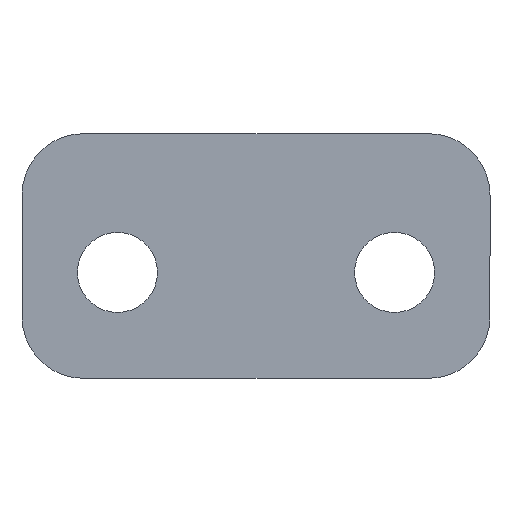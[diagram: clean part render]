
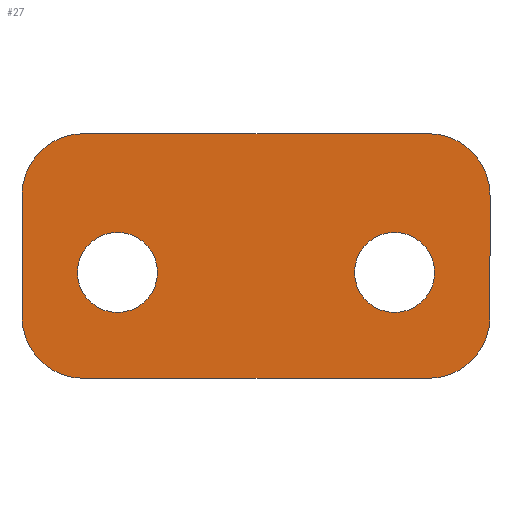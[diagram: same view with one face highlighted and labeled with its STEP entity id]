
A CAD part, front view. The second image highlights one B-rep face of the part: STEP entity #27.
In plain terms, the highlighted planar face has unit normal (0, -1, 0).
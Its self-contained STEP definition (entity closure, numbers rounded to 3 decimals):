
#8 = CARTESIAN_POINT ( 'NONE',  ( 22.5, 0., -29.04 ) ) ;
#10 = DIRECTION ( 'NONE',  ( 0., 0., 1. ) ) ;
#13 = CARTESIAN_POINT ( 'NONE',  ( -28., 0., -39.74 ) ) ;
#21 = EDGE_LOOP ( 'NONE', ( #287, #231, #251, #442, #207, #38, #490, #84 ) ) ;
#24 = CARTESIAN_POINT ( 'NONE',  ( 38., 0., -29.74 ) ) ;
#27 = ADVANCED_FACE ( 'NONE', ( #450, #73, #242 ), #203, .F. ) ;
#29 = ORIENTED_EDGE ( 'NONE', *, *, #481, .F. ) ;
#32 = DIRECTION ( 'NONE',  ( 0., 0., 1. ) ) ;
#34 = VERTEX_POINT ( 'NONE', #199 ) ;
#38 = ORIENTED_EDGE ( 'NONE', *, *, #99, .T. ) ;
#43 = EDGE_CURVE ( 'NONE', #77, #488, #513, .T. ) ;
#45 = CIRCLE ( 'NONE', #399, 10. ) ;
#58 = VERTEX_POINT ( 'NONE', #8 ) ;
#60 = AXIS2_PLACEMENT_3D ( 'NONE', #472, #312, #507 ) ;
#63 = DIRECTION ( 'NONE',  ( 0., 0., 1. ) ) ;
#65 = LINE ( 'NONE', #106, #324 ) ;
#67 = VERTEX_POINT ( 'NONE', #499 ) ;
#70 = ORIENTED_EDGE ( 'NONE', *, *, #315, .F. ) ;
#73 = FACE_BOUND ( 'NONE', #308, .T. ) ;
#77 = VERTEX_POINT ( 'NONE', #167 ) ;
#78 = CARTESIAN_POINT ( 'NONE',  ( 38., 0., 0. ) ) ;
#84 = ORIENTED_EDGE ( 'NONE', *, *, #163, .T. ) ;
#91 = EDGE_CURVE ( 'NONE', #34, #326, #272, .T. ) ;
#92 = CARTESIAN_POINT ( 'NONE',  ( -28., 0., -10. ) ) ;
#93 = AXIS2_PLACEMENT_3D ( 'NONE', #389, #268, #63 ) ;
#99 = EDGE_CURVE ( 'NONE', #162, #67, #45, .T. ) ;
#101 = VERTEX_POINT ( 'NONE', #339 ) ;
#103 = CIRCLE ( 'NONE', #191, 10. ) ;
#106 = CARTESIAN_POINT ( 'NONE',  ( -38., 0., -39.74 ) ) ;
#112 = CIRCLE ( 'NONE', #179, 6.5 ) ;
#113 = VERTEX_POINT ( 'NONE', #220 ) ;
#114 = DIRECTION ( 'NONE',  ( 0., 0., 1. ) ) ;
#119 = CARTESIAN_POINT ( 'NONE',  ( -38., 0., 0. ) ) ;
#128 = EDGE_CURVE ( 'NONE', #257, #276, #426, .T. ) ;
#130 = DIRECTION ( 'NONE',  ( 0., -1., 0. ) ) ;
#132 = CIRCLE ( 'NONE', #93, 6.5 ) ;
#149 = AXIS2_PLACEMENT_3D ( 'NONE', #367, #404, #32 ) ;
#162 = VERTEX_POINT ( 'NONE', #263 ) ;
#163 = EDGE_CURVE ( 'NONE', #113, #269, #103, .T. ) ;
#167 = CARTESIAN_POINT ( 'NONE',  ( -22.5, 0., -16.04 ) ) ;
#169 = DIRECTION ( 'NONE',  ( 0., -1., 0. ) ) ;
#171 = DIRECTION ( 'NONE',  ( 0., 0., 1. ) ) ;
#173 = ORIENTED_EDGE ( 'NONE', *, *, #204, .F. ) ;
#179 = AXIS2_PLACEMENT_3D ( 'NONE', #483, #489, #114 ) ;
#180 = AXIS2_PLACEMENT_3D ( 'NONE', #344, #494, #10 ) ;
#190 = EDGE_CURVE ( 'NONE', #257, #269, #65, .T. ) ;
#191 = AXIS2_PLACEMENT_3D ( 'NONE', #92, #337, #293 ) ;
#199 = CARTESIAN_POINT ( 'NONE',  ( 28., 0., -39.74 ) ) ;
#203 = PLANE ( 'NONE',  #149 ) ;
#204 = EDGE_CURVE ( 'NONE', #488, #77, #132, .T. ) ;
#207 = ORIENTED_EDGE ( 'NONE', *, *, #462, .F. ) ;
#218 = CARTESIAN_POINT ( 'NONE',  ( -22.5, 0., -22.54 ) ) ;
#220 = CARTESIAN_POINT ( 'NONE',  ( -28., 0., 0. ) ) ;
#231 = ORIENTED_EDGE ( 'NONE', *, *, #128, .T. ) ;
#238 = LINE ( 'NONE', #119, #323 ) ;
#242 = FACE_BOUND ( 'NONE', #351, .T. ) ;
#251 = ORIENTED_EDGE ( 'NONE', *, *, #439, .F. ) ;
#257 = VERTEX_POINT ( 'NONE', #396 ) ;
#263 = CARTESIAN_POINT ( 'NONE',  ( 38., 0., -10. ) ) ;
#268 = DIRECTION ( 'NONE',  ( 0., -1., 0. ) ) ;
#269 = VERTEX_POINT ( 'NONE', #350 ) ;
#272 = CIRCLE ( 'NONE', #459, 10. ) ;
#276 = VERTEX_POINT ( 'NONE', #13 ) ;
#287 = ORIENTED_EDGE ( 'NONE', *, *, #190, .F. ) ;
#289 = LINE ( 'NONE', #78, #348 ) ;
#293 = DIRECTION ( 'NONE',  ( 0., 0., 1. ) ) ;
#297 = CIRCLE ( 'NONE', #60, 6.5 ) ;
#304 = DIRECTION ( 'NONE',  ( 0., 0., 1. ) ) ;
#308 = EDGE_LOOP ( 'NONE', ( #470, #173 ) ) ;
#312 = DIRECTION ( 'NONE',  ( 0., -1., 0. ) ) ;
#315 = EDGE_CURVE ( 'NONE', #58, #101, #297, .T. ) ;
#323 = VECTOR ( 'NONE', #401, 1000. ) ;
#324 = VECTOR ( 'NONE', #304, 1000. ) ;
#325 = LINE ( 'NONE', #453, #408 ) ;
#326 = VERTEX_POINT ( 'NONE', #24 ) ;
#337 = DIRECTION ( 'NONE',  ( 0., -1., 0. ) ) ;
#339 = CARTESIAN_POINT ( 'NONE',  ( 22.5, 0., -16.04 ) ) ;
#342 = CARTESIAN_POINT ( 'NONE',  ( 28., 0., -29.74 ) ) ;
#344 = CARTESIAN_POINT ( 'NONE',  ( -28., 0., -29.74 ) ) ;
#346 = DIRECTION ( 'NONE',  ( 0., 0., 1. ) ) ;
#348 = VECTOR ( 'NONE', #366, 1000. ) ;
#350 = CARTESIAN_POINT ( 'NONE',  ( -38., 0., -10. ) ) ;
#351 = EDGE_LOOP ( 'NONE', ( #29, #70 ) ) ;
#358 = AXIS2_PLACEMENT_3D ( 'NONE', #218, #130, #171 ) ;
#360 = CARTESIAN_POINT ( 'NONE',  ( -22.5, 0., -29.04 ) ) ;
#366 = DIRECTION ( 'NONE',  ( 0., 0., -1. ) ) ;
#367 = CARTESIAN_POINT ( 'NONE',  ( 0., 0., 0. ) ) ;
#371 = DIRECTION ( 'NONE',  ( -1., 0., 0. ) ) ;
#389 = CARTESIAN_POINT ( 'NONE',  ( -22.5, 0., -22.54 ) ) ;
#396 = CARTESIAN_POINT ( 'NONE',  ( -38., 0., -29.74 ) ) ;
#399 = AXIS2_PLACEMENT_3D ( 'NONE', #464, #422, #469 ) ;
#400 = EDGE_CURVE ( 'NONE', #113, #67, #238, .T. ) ;
#401 = DIRECTION ( 'NONE',  ( 1., 0., 0. ) ) ;
#404 = DIRECTION ( 'NONE',  ( 0., 1., 0. ) ) ;
#408 = VECTOR ( 'NONE', #371, 1000. ) ;
#422 = DIRECTION ( 'NONE',  ( 0., -1., 0. ) ) ;
#426 = CIRCLE ( 'NONE', #180, 10. ) ;
#439 = EDGE_CURVE ( 'NONE', #34, #276, #325, .T. ) ;
#442 = ORIENTED_EDGE ( 'NONE', *, *, #91, .T. ) ;
#450 = FACE_OUTER_BOUND ( 'NONE', #21, .T. ) ;
#453 = CARTESIAN_POINT ( 'NONE',  ( 38., 0., -39.74 ) ) ;
#459 = AXIS2_PLACEMENT_3D ( 'NONE', #342, #169, #346 ) ;
#462 = EDGE_CURVE ( 'NONE', #162, #326, #289, .T. ) ;
#464 = CARTESIAN_POINT ( 'NONE',  ( 28., 0., -10. ) ) ;
#469 = DIRECTION ( 'NONE',  ( 0., 0., 1. ) ) ;
#470 = ORIENTED_EDGE ( 'NONE', *, *, #43, .F. ) ;
#472 = CARTESIAN_POINT ( 'NONE',  ( 22.5, 0., -22.54 ) ) ;
#481 = EDGE_CURVE ( 'NONE', #101, #58, #112, .T. ) ;
#483 = CARTESIAN_POINT ( 'NONE',  ( 22.5, 0., -22.54 ) ) ;
#488 = VERTEX_POINT ( 'NONE', #360 ) ;
#489 = DIRECTION ( 'NONE',  ( 0., -1., 0. ) ) ;
#490 = ORIENTED_EDGE ( 'NONE', *, *, #400, .F. ) ;
#494 = DIRECTION ( 'NONE',  ( 0., -1., 0. ) ) ;
#499 = CARTESIAN_POINT ( 'NONE',  ( 28., 0., 0. ) ) ;
#507 = DIRECTION ( 'NONE',  ( 0., 0., 1. ) ) ;
#513 = CIRCLE ( 'NONE', #358, 6.5 ) ;
